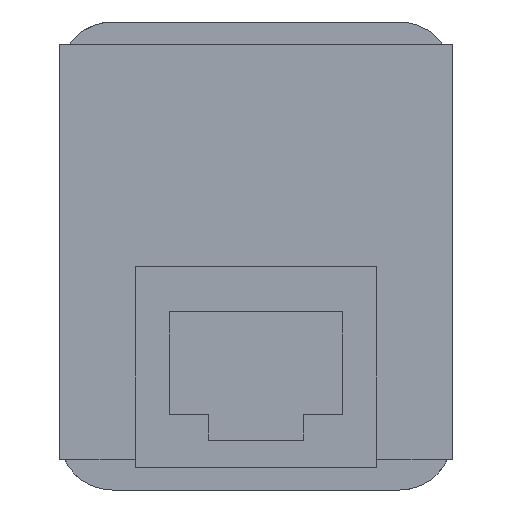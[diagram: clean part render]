
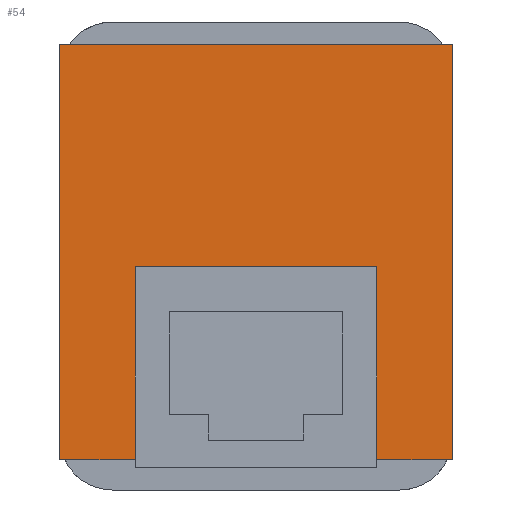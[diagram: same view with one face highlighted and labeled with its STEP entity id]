
A CAD part, left-side view. The second image highlights one B-rep face of the part: STEP entity #54.
In plain terms, the highlighted planar face has unit normal (-1, 0, 0).
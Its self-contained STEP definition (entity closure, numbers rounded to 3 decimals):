
#54=ADVANCED_FACE('',(#125),#2294,.T.);
#125=FACE_OUTER_BOUND('',#201,.T.);
#201=EDGE_LOOP('',(#366,#367,#368,#369,#370,#371,#372,#373));
#366=ORIENTED_EDGE('',*,*,#1632,.T.);
#367=ORIENTED_EDGE('',*,*,#1633,.T.);
#368=ORIENTED_EDGE('',*,*,#1624,.F.);
#369=ORIENTED_EDGE('',*,*,#1593,.F.);
#370=ORIENTED_EDGE('',*,*,#1634,.T.);
#371=ORIENTED_EDGE('',*,*,#1635,.T.);
#372=ORIENTED_EDGE('',*,*,#1622,.F.);
#373=ORIENTED_EDGE('',*,*,#1628,.F.);
#747=PCURVE('',#2282,#1091);
#786=PCURVE('',#2291,#1130);
#792=PCURVE('',#2291,#1136);
#797=PCURVE('',#2293,#1141);
#802=PCURVE('',#2294,#1146);
#803=PCURVE('',#2294,#1147);
#804=PCURVE('',#2294,#1148);
#805=PCURVE('',#2294,#1149);
#806=PCURVE('',#2294,#1150);
#807=PCURVE('',#2294,#1151);
#808=PCURVE('',#2294,#1152);
#809=PCURVE('',#2294,#1153);
#818=PCURVE('',#2296,#1162);
#822=PCURVE('',#2297,#1166);
#879=PCURVE('',#2308,#1223);
#895=PCURVE('',#2310,#1239);
#1091=DEFINITIONAL_REPRESENTATION('',(#1786),#4454);
#1130=DEFINITIONAL_REPRESENTATION('',(#1830),#4454);
#1136=DEFINITIONAL_REPRESENTATION('',(#1838),#4454);
#1141=DEFINITIONAL_REPRESENTATION('',(#1847),#4454);
#1146=DEFINITIONAL_REPRESENTATION('',(#1856),#4454);
#1147=DEFINITIONAL_REPRESENTATION('',(#1858),#4454);
#1148=DEFINITIONAL_REPRESENTATION('',(#1859),#4454);
#1149=DEFINITIONAL_REPRESENTATION('',(#1860),#4454);
#1150=DEFINITIONAL_REPRESENTATION('',(#1862),#4454);
#1151=DEFINITIONAL_REPRESENTATION('',(#1864),#4454);
#1152=DEFINITIONAL_REPRESENTATION('',(#1865),#4454);
#1153=DEFINITIONAL_REPRESENTATION('',(#1866),#4454);
#1162=DEFINITIONAL_REPRESENTATION('',(#1883),#4454);
#1166=DEFINITIONAL_REPRESENTATION('',(#1889),#4454);
#1223=DEFINITIONAL_REPRESENTATION('',(#1966),#4454);
#1239=DEFINITIONAL_REPRESENTATION('',(#1985),#4454);
#1421=SURFACE_CURVE('',#1785,(#747,#805),.PCURVE_S1.);
#1450=SURFACE_CURVE('',#1829,(#786,#808),.PCURVE_S1.);
#1452=SURFACE_CURVE('',#1837,(#792,#804),.PCURVE_S1.);
#1456=SURFACE_CURVE('',#1846,(#797,#809),.PCURVE_S1.);
#1460=SURFACE_CURVE('',#1855,(#802,#818),.PCURVE_S1.);
#1461=SURFACE_CURVE('',#1857,(#803,#822),.PCURVE_S1.);
#1462=SURFACE_CURVE('',#1861,(#806,#895),.PCURVE_S1.);
#1463=SURFACE_CURVE('',#1863,(#807,#879),.PCURVE_S1.);
#1593=EDGE_CURVE('',#2184,#2183,#1421,.T.);
#1622=EDGE_CURVE('',#2204,#2205,#1450,.T.);
#1624=EDGE_CURVE('',#2183,#2203,#1452,.T.);
#1628=EDGE_CURVE('',#2208,#2204,#1456,.T.);
#1632=EDGE_CURVE('',#2208,#2211,#1460,.T.);
#1633=EDGE_CURVE('',#2211,#2203,#1461,.T.);
#1634=EDGE_CURVE('',#2184,#2212,#1462,.T.);
#1635=EDGE_CURVE('',#2212,#2205,#1463,.T.);
#1785=B_SPLINE_CURVE_WITH_KNOTS('',1,(#3507,#3508),.UNSPECIFIED.,.F.,.F.,
(2,2),(-27.5,0.),.UNSPECIFIED.);
#1786=B_SPLINE_CURVE_WITH_KNOTS('',1,(#3509,#3510),.UNSPECIFIED.,.F.,.F.,
(2,2),(-27.5,0.),.UNSPECIFIED.);
#1829=B_SPLINE_CURVE_WITH_KNOTS('',1,(#3683,#3684),.UNSPECIFIED.,.F.,.F.,
(2,2),(-5.,0.),.UNSPECIFIED.);
#1830=B_SPLINE_CURVE_WITH_KNOTS('',1,(#3685,#3686),.UNSPECIFIED.,.F.,.F.,
(2,2),(-5.,0.),.UNSPECIFIED.);
#1837=B_SPLINE_CURVE_WITH_KNOTS('',1,(#3699,#3700),.UNSPECIFIED.,.F.,.F.,
(2,2),(-5.,0.),.UNSPECIFIED.);
#1838=B_SPLINE_CURVE_WITH_KNOTS('',1,(#3701,#3702),.UNSPECIFIED.,.F.,.F.,
(2,2),(-5.,0.),.UNSPECIFIED.);
#1846=B_SPLINE_CURVE_WITH_KNOTS('',1,(#3717,#3718),.UNSPECIFIED.,.F.,.F.,
(2,2),(-12.8,0.),.UNSPECIFIED.);
#1847=B_SPLINE_CURVE_WITH_KNOTS('',1,(#3719,#3720),.UNSPECIFIED.,.F.,.F.,
(2,2),(-12.8,0.),.UNSPECIFIED.);
#1855=B_SPLINE_CURVE_WITH_KNOTS('',1,(#3735,#3736),.UNSPECIFIED.,.F.,.F.,
(2,2),(-16.,0.),.UNSPECIFIED.);
#1856=B_SPLINE_CURVE_WITH_KNOTS('',1,(#3737,#3738),.UNSPECIFIED.,.F.,.F.,
(2,2),(-16.,0.),.UNSPECIFIED.);
#1857=B_SPLINE_CURVE_WITH_KNOTS('',1,(#3739,#3740),.UNSPECIFIED.,.F.,.F.,
(2,2),(-12.8,0.),.UNSPECIFIED.);
#1858=B_SPLINE_CURVE_WITH_KNOTS('',1,(#3741,#3742),.UNSPECIFIED.,.F.,.F.,
(2,2),(-12.8,0.),.UNSPECIFIED.);
#1859=B_SPLINE_CURVE_WITH_KNOTS('',1,(#3743,#3744),.UNSPECIFIED.,.F.,.F.,
(2,2),(-5.,0.),.UNSPECIFIED.);
#1860=B_SPLINE_CURVE_WITH_KNOTS('',1,(#3745,#3746),.UNSPECIFIED.,.F.,.F.,
(2,2),(-27.5,0.),.UNSPECIFIED.);
#1861=B_SPLINE_CURVE_WITH_KNOTS('',1,(#3747,#3748),.UNSPECIFIED.,.F.,.F.,
(2,2),(0.,26.),.UNSPECIFIED.);
#1862=B_SPLINE_CURVE_WITH_KNOTS('',1,(#3749,#3750),.UNSPECIFIED.,.F.,.F.,
(2,2),(0.,26.),.UNSPECIFIED.);
#1863=B_SPLINE_CURVE_WITH_KNOTS('',1,(#3751,#3752),.UNSPECIFIED.,.F.,.F.,
(2,2),(0.,27.5),.UNSPECIFIED.);
#1864=B_SPLINE_CURVE_WITH_KNOTS('',1,(#3753,#3754),.UNSPECIFIED.,.F.,.F.,
(2,2),(0.,27.5),.UNSPECIFIED.);
#1865=B_SPLINE_CURVE_WITH_KNOTS('',1,(#3755,#3756),.UNSPECIFIED.,.F.,.F.,
(2,2),(-5.,0.),.UNSPECIFIED.);
#1866=B_SPLINE_CURVE_WITH_KNOTS('',1,(#3757,#3758),.UNSPECIFIED.,.F.,.F.,
(2,2),(-12.8,0.),.UNSPECIFIED.);
#1883=B_SPLINE_CURVE_WITH_KNOTS('',1,(#3791,#3792),.UNSPECIFIED.,.F.,.F.,
(2,2),(-16.,0.),.UNSPECIFIED.);
#1889=B_SPLINE_CURVE_WITH_KNOTS('',1,(#3803,#3804),.UNSPECIFIED.,.F.,.F.,
(2,2),(-12.8,0.),.UNSPECIFIED.);
#1966=B_SPLINE_CURVE_WITH_KNOTS('',1,(#3957,#3958),.UNSPECIFIED.,.F.,.F.,
(2,2),(0.,27.5),.UNSPECIFIED.);
#1985=B_SPLINE_CURVE_WITH_KNOTS('',1,(#3995,#3996),.UNSPECIFIED.,.F.,.F.,
(2,2),(0.,26.),.UNSPECIFIED.);
#2183=VERTEX_POINT('',#3101);
#2184=VERTEX_POINT('',#3102);
#2203=VERTEX_POINT('',#3121);
#2204=VERTEX_POINT('',#3122);
#2205=VERTEX_POINT('',#3123);
#2208=VERTEX_POINT('',#3126);
#2211=VERTEX_POINT('',#3129);
#2212=VERTEX_POINT('',#3130);
#2282=PLANE('',#2349);
#2291=PLANE('',#2358);
#2293=PLANE('',#2360);
#2294=PLANE('',#2361);
#2296=PLANE('',#2363);
#2297=PLANE('',#2364);
#2308=PLANE('',#2375);
#2310=PLANE('',#2377);
#2349=AXIS2_PLACEMENT_3D('',#2521,#2399,$);
#2358=AXIS2_PLACEMENT_3D('',#2566,#2408,$);
#2360=AXIS2_PLACEMENT_3D('',#2568,#2410,$);
#2361=AXIS2_PLACEMENT_3D('',#2569,#2411,$);
#2363=AXIS2_PLACEMENT_3D('',#2571,#2413,$);
#2364=AXIS2_PLACEMENT_3D('',#2572,#2414,$);
#2375=AXIS2_PLACEMENT_3D('',#2583,#2425,$);
#2377=AXIS2_PLACEMENT_3D('',#2603,#2427,$);
#2399=DIRECTION('',(0.,-1.,0.));
#2408=DIRECTION('',(0.,0.,-1.));
#2410=DIRECTION('',(0.,1.,0.));
#2411=DIRECTION('',(-1.,0.,0.));
#2413=DIRECTION('',(0.,0.,1.));
#2414=DIRECTION('',(0.,-1.,0.));
#2425=DIRECTION('',(0.,1.,0.));
#2427=DIRECTION('',(0.,0.,1.));
#2521=CARTESIAN_POINT('',(802.378,372.,-96.322));
#2566=CARTESIAN_POINT('',(808.972,400.672,-93.5));
#2568=CARTESIAN_POINT('',(805.972,393.,-79.298));
#2569=CARTESIAN_POINT('',(804.5,400.672,-96.322));
#2571=CARTESIAN_POINT('',(805.972,375.328,-80.7));
#2572=CARTESIAN_POINT('',(805.972,377.,-95.402));
#2583=CARTESIAN_POINT('',(802.378,398.,-63.178));
#2603=CARTESIAN_POINT('',(808.972,369.328,-66.));
#3101=CARTESIAN_POINT('',(804.5,372.,-93.5));
#3102=CARTESIAN_POINT('',(804.5,372.,-66.));
#3121=CARTESIAN_POINT('',(804.5,377.,-93.5));
#3122=CARTESIAN_POINT('',(804.5,393.,-93.5));
#3123=CARTESIAN_POINT('',(804.5,398.,-93.5));
#3126=CARTESIAN_POINT('',(804.5,393.,-80.7));
#3129=CARTESIAN_POINT('',(804.5,377.,-80.7));
#3130=CARTESIAN_POINT('',(804.5,398.,-66.));
#3507=CARTESIAN_POINT('',(804.5,372.,-66.));
#3508=CARTESIAN_POINT('',(804.5,372.,-93.5));
#3509=CARTESIAN_POINT('',(-20.5,26.));
#3510=CARTESIAN_POINT('',(-20.5,-1.5));
#3683=CARTESIAN_POINT('',(804.5,393.,-93.5));
#3684=CARTESIAN_POINT('',(804.5,398.,-93.5));
#3685=CARTESIAN_POINT('',(5.,4.));
#3686=CARTESIAN_POINT('',(0.,4.));
#3699=CARTESIAN_POINT('',(804.5,372.,-93.5));
#3700=CARTESIAN_POINT('',(804.5,377.,-93.5));
#3701=CARTESIAN_POINT('',(26.,4.));
#3702=CARTESIAN_POINT('',(21.,4.));
#3717=CARTESIAN_POINT('',(804.5,393.,-80.7));
#3718=CARTESIAN_POINT('',(804.5,393.,-93.5));
#3719=CARTESIAN_POINT('',(0.,0.));
#3720=CARTESIAN_POINT('',(12.8,0.));
#3735=CARTESIAN_POINT('',(804.5,393.,-80.7));
#3736=CARTESIAN_POINT('',(804.5,377.,-80.7));
#3737=CARTESIAN_POINT('',(-8.,-0.7));
#3738=CARTESIAN_POINT('',(8.,-0.7));
#3739=CARTESIAN_POINT('',(804.5,377.,-80.7));
#3740=CARTESIAN_POINT('',(804.5,377.,-93.5));
#3741=CARTESIAN_POINT('',(8.,-0.7));
#3742=CARTESIAN_POINT('',(8.,-13.5));
#3743=CARTESIAN_POINT('',(13.,-13.5));
#3744=CARTESIAN_POINT('',(8.,-13.5));
#3745=CARTESIAN_POINT('',(13.,14.));
#3746=CARTESIAN_POINT('',(13.,-13.5));
#3747=CARTESIAN_POINT('',(804.5,372.,-66.));
#3748=CARTESIAN_POINT('',(804.5,398.,-66.));
#3749=CARTESIAN_POINT('',(13.,14.));
#3750=CARTESIAN_POINT('',(-13.,14.));
#3751=CARTESIAN_POINT('',(804.5,398.,-66.));
#3752=CARTESIAN_POINT('',(804.5,398.,-93.5));
#3753=CARTESIAN_POINT('',(-13.,14.));
#3754=CARTESIAN_POINT('',(-13.,-13.5));
#3755=CARTESIAN_POINT('',(-8.,-13.5));
#3756=CARTESIAN_POINT('',(-13.,-13.5));
#3757=CARTESIAN_POINT('',(-8.,-0.7));
#3758=CARTESIAN_POINT('',(-8.,-13.5));
#3791=CARTESIAN_POINT('',(16.,0.));
#3792=CARTESIAN_POINT('',(0.,0.));
#3803=CARTESIAN_POINT('',(13.3,0.));
#3804=CARTESIAN_POINT('',(0.5,0.));
#3957=CARTESIAN_POINT('',(-20.5,-2.));
#3958=CARTESIAN_POINT('',(-20.5,25.5));
#3995=CARTESIAN_POINT('',(0.,4.));
#3996=CARTESIAN_POINT('',(26.,4.));
#4454=(
GEOMETRIC_REPRESENTATION_CONTEXT(2)
PARAMETRIC_REPRESENTATION_CONTEXT()
REPRESENTATION_CONTEXT('pspace','')
);
